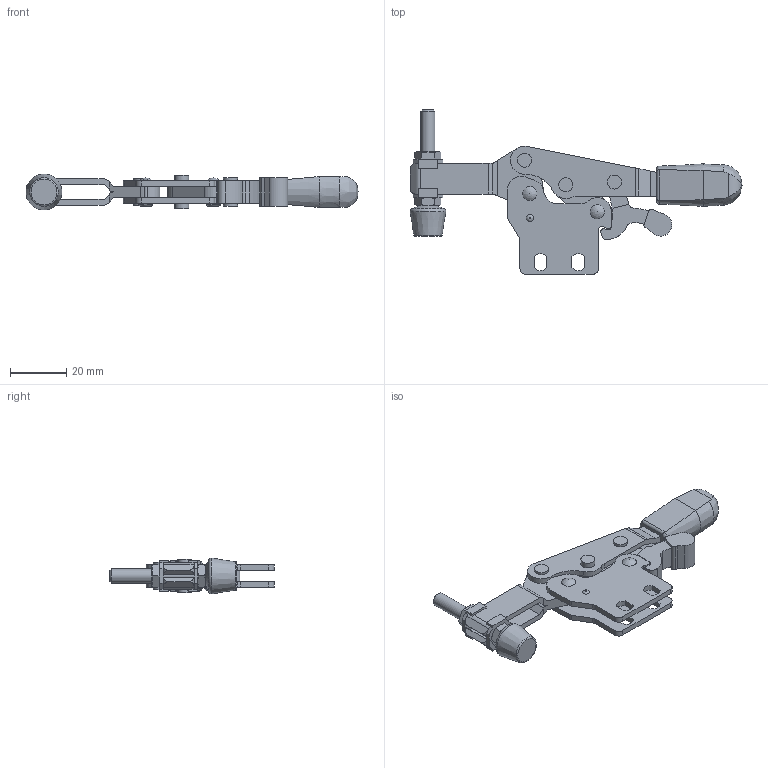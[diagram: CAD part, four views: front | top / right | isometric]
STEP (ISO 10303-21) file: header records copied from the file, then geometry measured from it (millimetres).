
FILE_DESCRIPTION( ( 'STEP AP203' ), '1' );
FILE_NAME( 'C:/Temp/Ganter_Step_05_03_2020/data/2_4/gn_820_4/gn_820_4_st/Toggle clamp GN 820.4-75-NLC (closed).stp', '2020-03-13T05:53:28', ( 'License CC BY-ND 4.0' ), ( 'CADENAS' ), ' ', 'PARTsolutions', ' ' );
FILE_SCHEMA( ( 'CONFIG_CONTROL_DESIGN' ) );
Length unit declared in the file: millimetre
Products named in the file (8): Toggle clamp GN 820.4-75-NLC (closed); _Toggle clamp GN 820.4-75-NLC-1; _Toggle clamp GN 820.4-75-NLC (1)-2; _Toggle clamp GN 820.4-75-NLC (1)-3; _Toggle clamp GN 820.4-75-NLC (1)-4; _Toggle clamp GN 820.4-75-NLC-5; _Toggle clamp GN 820.4-75-NLC-7; _Clamping bolt GN 708.1-M5-45-A-ST PLC
Assembly tree (8 placements, depth 2):
  Toggle clamp GN 820.4-75-NLC (closed)
    _Toggle clamp GN 820.4-75-NLC-1
    _Toggle clamp GN 820.4-75-NLC (1)-2
    _Toggle clamp GN 820.4-75-NLC (1)-3
    _Toggle clamp GN 820.4-75-NLC (1)-4
    _Toggle clamp GN 820.4-75-NLC-5
    _Toggle clamp GN 820.4-75-NLC-7  x2
    _Clamping bolt GN 708.1-M5-45-A-ST PLC
Bounding box: 118.13 x 58.5 x 12.77 mm (x, y, z)
Volume: 17211.7 mm3; surface area: 15096 mm2
Topology: 8 solids, 8 shells, 311 faces, 809 edges, 531 vertices
Faces by surface type: plane 164, cylinder 101, cone 35, torus 6, bspline 5
Full cylindrical faces by diameter (mm): 1 x1, 3.8 x4, 4.134 x2, 5 x16, 5.5 x2
Entity records: 8619 total; most frequent: CARTESIAN_POINT 1753, DIRECTION 1403, ORIENTED_EDGE 1310, EDGE_CURVE 655, AXIS2_PLACEMENT_3D 517, VERTEX_POINT 455, LINE 369, VECTOR 369
